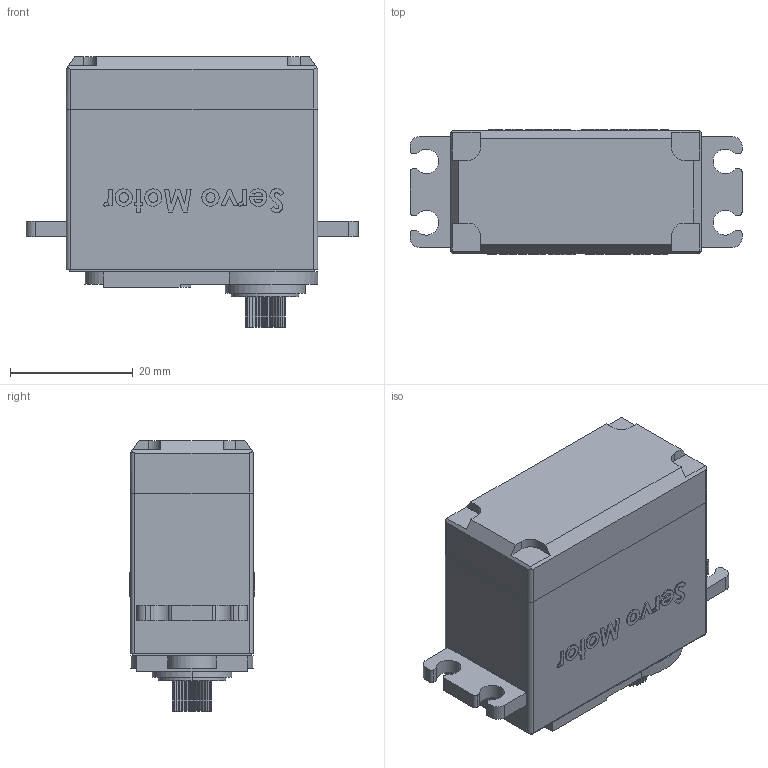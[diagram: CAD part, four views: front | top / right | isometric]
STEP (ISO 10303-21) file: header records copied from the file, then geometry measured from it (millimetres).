
FILE_DESCRIPTION (( 'STEP AP214' ), '1' );
FILE_NAME ('Servo Motor.STEP', '2026-10-09T20:54:09', ( '' ), ( '' ), 'SwSTEP 2.0', 'SolidWorks 2026', '' );
FILE_SCHEMA (( 'AUTOMOTIVE_DESIGN' ));
Length unit declared in the file: millimetre
Products named in the file (1): Servo Motor
Bounding box: 54 x 20.4 x 44 mm (x, y, z)
Volume: 30472.7 mm3; surface area: 8500.7 mm2
Topology: 2 solids, 2 shells, 492 faces, 1353 edges, 900 vertices
Faces by surface type: plane 272, bspline 116, cylinder 104
Entity records: 21711 total; most frequent: CARTESIAN_POINT 9762, ORIENTED_EDGE 2706, DIRECTION 2077, EDGE_CURVE 1353, VECTOR 903, LINE 903, VERTEX_POINT 900, AXIS2_PLACEMENT_3D 587
